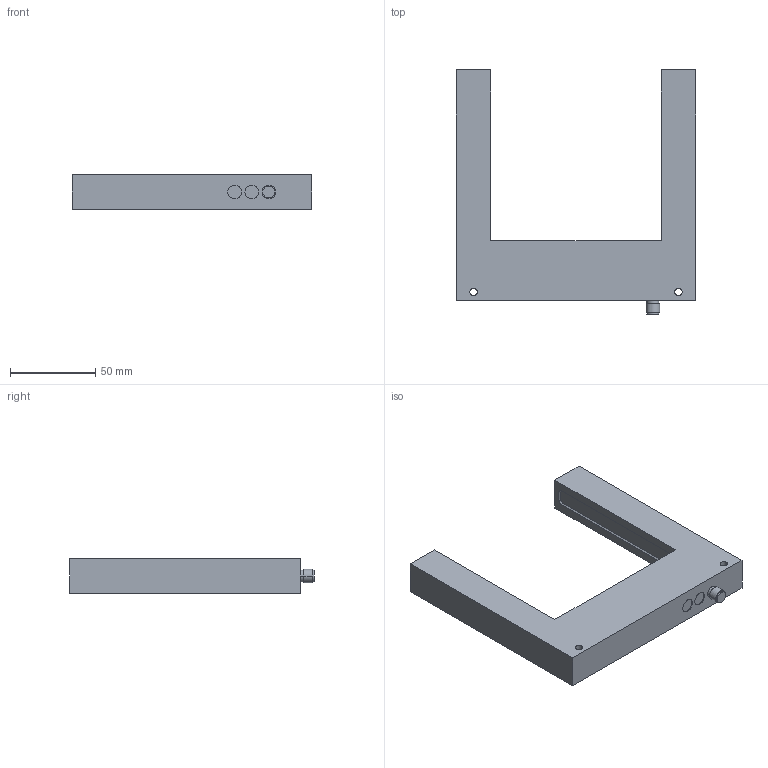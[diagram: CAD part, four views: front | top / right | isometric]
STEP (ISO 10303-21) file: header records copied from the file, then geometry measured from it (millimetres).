
FILE_DESCRIPTION(('STEP AP214'),'1');
FILE_NAME('W:/Zeichnungen/3D Modelle homepage/tmp0.step','2014-11-27T10:54:07',(' '),(' '),'Spatial InterOp 3D',' ',' ');
FILE_SCHEMA(('automotive_design'));
Length unit declared in the file: millimetre
Products named in the file (1): 2
Bounding box: 140 x 143 x 20 mm (x, y, z)
Volume: 175931.7 mm3; surface area: 33754.5 mm2
Topology: 1 solids, 1 shells, 59 faces, 144 edges, 92 vertices
Faces by surface type: plane 29, cylinder 22, cone 8
Entity records: 2238 total; most frequent: DIRECTION 316, CARTESIAN_POINT 296, ORIENTED_EDGE 288, EDGE_CURVE 144, AXIS2_PLACEMENT_3D 112, VERTEX_POINT 92, LINE 92, VECTOR 92
